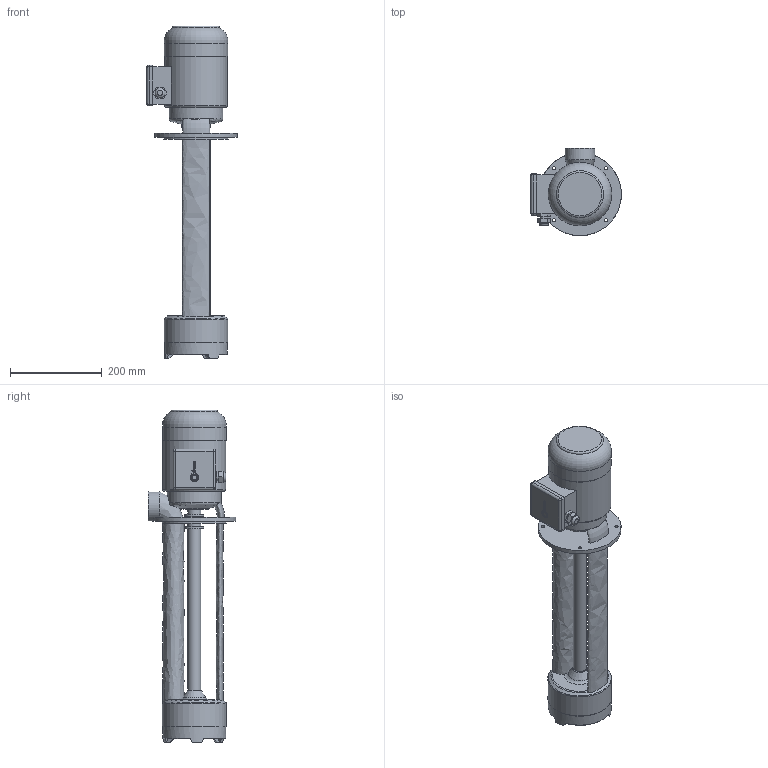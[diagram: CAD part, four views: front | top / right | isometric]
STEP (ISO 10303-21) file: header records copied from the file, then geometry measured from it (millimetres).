
FILE_DESCRIPTION(/* description */ ('Unknown'),/* implementation_level */ '2;1');
FILE_NAME(/* name */ 'EP 152-480',/* time_stamp */ '2023-03-28T15:14:47+03:00',/* author */ ('Unknown'),/* organization */ ('Unknown'),/* preprocessor_version */ 'ST-DEVELOPER v16.7',/* originating_system */ 'DEX',/* authorisation */ $);
FILE_SCHEMA (('AUTOMOTIVE_DESIGN {1 0 10303 214 3 1 1}'));
Length unit declared in the file: millimetre
Products named in the file (1): EP 152-480
Bounding box: 197.5 x 190 x 722.36 mm (x, y, z)
Volume: 6310724.4 mm3; surface area: 414376.6 mm2
Topology: 1 solids, 1 shells, 264 faces, 670 edges, 431 vertices
Faces by surface type: plane 91, bspline 81, cylinder 56, torus 26, cone 10
Full cylindrical faces by diameter (mm): 7 x4, 17 x1, 21.5 x1, 28 x1, 29 x3, 30 x1, 42 x2, 44 x1, 48 x1, 62 x1, 94 x1, 116.969 x1, 136.473 x1, 137 x1, 137.994 x1, 139 x1, 140 x1, 180 x1
Entity records: 11309 total; most frequent: CARTESIAN_POINT 5675, ORIENTED_EDGE 1204, DIRECTION 957, EDGE_CURVE 602, VERTEX_POINT 415, AXIS2_PLACEMENT_3D 364, EDGE_LOOP 355, FACE_BOUND 355
